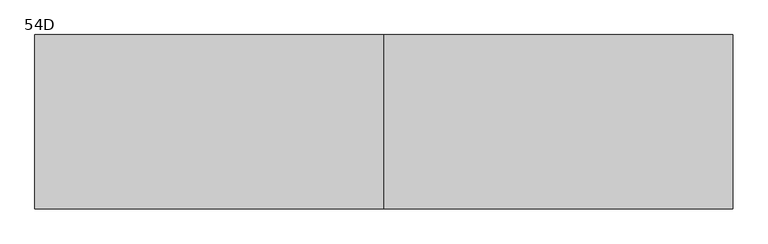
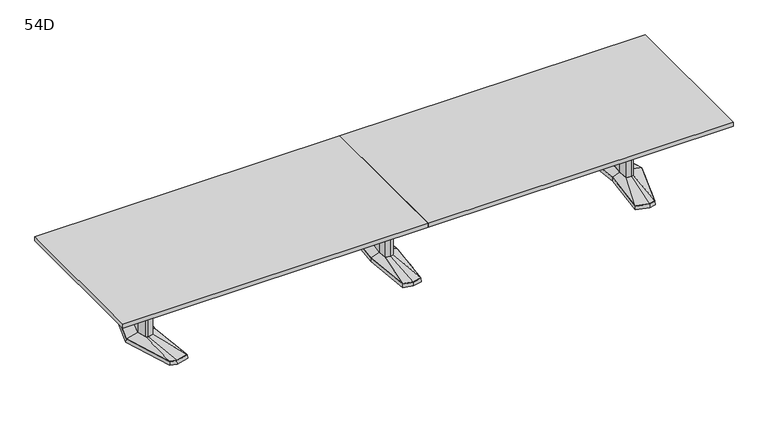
"""IFC4 building model written with IfcOpenShell, lengths in millimetres: furniture geometry, Coalesse_AM_Table_Conference_ETable2_Rectangular_18ft_AluminiumBase : 54D."""

from ifc_helpers import new_model, si_unit, frame, origin, place, context, project, spatial, polyline, outline, extrude, faceted_brep, source, transform, mapped, element, save
from ifc_brep_helpers import plane_surface, spline_surface, advanced_brep


def furniture_54d_8ed66000(model_context):
    return source(origin(), model_context, "Body", "SolidModel", [
        faceted_brep([(-81.2333791, -433.8053819, 38.1), (0.0, -455.556576, 38.1), (81.2333791, -433.8053819, 38.1), (119.0564774, 0.0, 38.1), (81.2333791, 433.8053819, 38.1), (0.0, 455.556576, 38.1), (-81.2333791, 433.8053819, 38.1), (-119.0564774, 0.0, 38.1), (-82.7182795, -435.0512063, 3.175), (-120.65, 0.0, 3.175), (-82.7182795, 435.0512063, 3.175), (0.0, 457.2, 3.175), (82.7182795, 435.0512063, 3.175), (120.65, 0.0, 3.175), (82.7182795, -435.0512063, 3.175), (0.0, -457.2, 3.175), (0.0, 429.2617927, 3.175), (-77.9676806, 408.3850278, 3.175), (-74.7019821, 382.9646737, 3.175), (0.0, 402.9670094, 3.175), (74.7019821, 382.9646737, 3.175), (77.9676806, 408.3850278, 3.175), (0.0, -429.2617927, 3.175), (77.9676806, -408.3850278, 3.175), (74.7019821, -382.9646737, 3.175), (0.0, -402.9670094, 3.175), (-74.7019821, -382.9646737, 3.175), (-77.9676806, -408.3850278, 3.175), (-71.8574262, 114.6326257, 3.175), (-82.5426076, 0.0, 3.175), (-71.8574262, -114.6326257, 3.175), (0.0, -133.8761372, 3.175), (71.8574262, -114.6326257, 3.175), (82.5426076, 0.0, 3.175), (71.8574262, 114.6326257, 3.175), (0.0, 133.8761372, 3.175), (0.0, 429.2617927, 0.0), (77.9676806, 408.3850278, 0.0), (74.7019821, 382.9646737, 0.0), (0.0, 402.9670094, 0.0), (-74.7019821, 382.9646737, 0.0), (-77.9676806, 408.3850278, 0.0), (0.0, -429.2617927, 0.0), (-77.9676806, -408.3850278, 0.0), (-74.7019821, -382.9646737, 0.0), (0.0, -402.9670094, 0.0), (74.7019821, -382.9646737, 0.0), (77.9676806, -408.3850278, 0.0), (-71.8574262, 114.6326257, 0.0), (0.0, 133.8761372, 0.0), (71.8574262, 114.6326257, 0.0), (82.5426076, 0.0, 0.0), (71.8574262, -114.6326257, 0.0), (0.0, -133.8761372, 0.0), (-71.8574262, -114.6326257, 0.0), (-82.5426076, 0.0, 0.0)], [[[0, 1, 2, 3, 4, 5, 6, 7]], [[8, 9, 10, 11, 12, 13, 14, 15], [16, 17, 18, 19, 20, 21], [22, 23, 24, 25, 26, 27], [28, 29, 30, 31, 32, 33, 34, 35]], [[1, 0, 8, 15]], [[2, 1, 15, 14]], [[3, 2, 14, 13]], [[4, 3, 13, 12]], [[5, 4, 12, 11]], [[6, 5, 11, 10]], [[7, 6, 10, 9]], [[0, 7, 9, 8]], [[36, 37, 38, 39, 40, 41]], [[42, 43, 44, 45, 46, 47]], [[48, 49, 50, 51, 52, 53, 54, 55]], [[36, 41, 17, 16]], [[41, 40, 18, 17]], [[40, 39, 19, 18]], [[39, 38, 20, 19]], [[38, 37, 21, 20]], [[37, 36, 16, 21]], [[42, 47, 23, 22]], [[47, 46, 24, 23]], [[46, 45, 25, 24]], [[45, 44, 26, 25]], [[44, 43, 27, 26]], [[43, 42, 22, 27]], [[48, 55, 29, 28]], [[55, 54, 30, 29]], [[54, 53, 31, 30]], [[53, 52, 32, 31]], [[52, 51, 33, 32]], [[51, 50, 34, 33]], [[50, 49, 35, 34]], [[49, 48, 28, 35]]]),
        faceted_brep([(-36.3832834, 84.6900825, 698.5), (-44.2774487, 0.0, 698.5), (-36.3832834, -84.6900825, 698.5), (0.0, -94.4335728, 698.5), (36.3832834, -84.6900825, 698.5), (44.2774487, 0.0, 698.5), (36.3832834, 84.6900825, 698.5), (0.0, 94.4335728, 698.5), (-36.3832834, 84.6900825, 63.5), (0.0, 94.4335728, 63.5), (36.3832834, 84.6900825, 63.5), (44.2774487, 0.0, 63.5), (36.3832834, -84.6900825, 63.5), (0.0, -94.4335728, 63.5), (-36.3832834, -84.6900825, 63.5), (-44.2774487, 0.0, 63.5)], [[[0, 1, 2, 3, 4, 5, 6, 7]], [[8, 9, 10, 11, 12, 13, 14, 15]], [[1, 0, 8, 15]], [[2, 1, 15, 14]], [[3, 2, 14, 13]], [[4, 3, 13, 12]], [[5, 4, 12, 11]], [[6, 5, 11, 10]], [[7, 6, 10, 9]], [[0, 7, 9, 8]]]),
        advanced_brep(
        [(-36.3832834, 84.6900825, 63.5), (-44.2774487, 0.0, 63.5), (-36.3832834, -84.6900825, 63.5), (0.0, -94.4335728, 63.5), (36.3832834, -84.6900825, 63.5), (44.2774487, 0.0, 63.5), (36.3832834, 84.6900825, 63.5), (0.0, 94.4335728, 63.5), (-81.2333791, 433.8053819, 38.1), (0.0, 455.556576, 38.1), (81.2333791, 433.8053819, 38.1), (119.0564774, 0.0, 38.1), (81.2333791, -433.8053819, 38.1), (0.0, -455.556576, 38.1), (-81.2333791, -433.8053819, 38.1), (-119.0564774, 0.0, 38.1)],
        [
            (0, 1),
            (1, 2),
            (2, 3),
            (3, 4),
            (4, 5),
            (5, 6),
            (6, 7),
            (7, 0),
            (8, 9),
            (9, 10),
            (10, 11),
            (11, 12),
            (12, 13),
            (13, 14),
            (14, 15),
            (15, 8),
            (15, 1),
            (0, 8),
            (14, 2),
            (13, 3),
            (12, 4),
            (11, 5),
            (10, 6),
            (9, 7),
        ],
        [
            plane_surface(frame((0.0, 0.0, 63.5), z_axis=(0.0, 0.0, 1.0000000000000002), x_axis=(-0.9659615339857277, -0.25868574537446, 0.0))),
            plane_surface(frame((0.0, 0.0, 38.1), z_axis=(0.0, 0.0, -1.0000000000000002), x_axis=(-0.9659615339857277, -0.25868574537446, 0.0))),
            spline_surface(1, 1, [[(-81.2333791, 433.8053819, 38.1), (-36.3832834, 84.6900825, 63.5)], [(-119.0564774, 0.0, 38.1), (-44.2774487, 0.0, 63.5)]], [2, 2], [2, 2], [0.0, 1.0], [0.0, 1.0]),
            spline_surface(1, 1, [[(-119.0564774, 0.0, 38.1), (-44.2774487, 0.0, 63.5)], [(-81.2333791, -433.8053819, 38.1), (-36.3832834, -84.6900825, 63.5)]], [2, 2], [2, 2], [0.0, 1.0], [0.0, 1.0]),
            spline_surface(1, 1, [[(-81.2333791, -433.8053819, 38.1), (-36.3832834, -84.6900825, 63.5)], [(0.0, -455.556576, 38.1), (0.0, -94.4335728, 63.5)]], [2, 2], [2, 2], [0.0, 1.0], [0.0, 1.0]),
            spline_surface(1, 1, [[(0.0, -455.556576, 38.1), (0.0, -94.4335728, 63.5)], [(81.2333791, -433.8053819, 38.1), (36.3832834, -84.6900825, 63.5)]], [2, 2], [2, 2], [0.0, 1.0], [0.0, 1.0]),
            spline_surface(1, 1, [[(81.2333791, -433.8053819, 38.1), (36.3832834, -84.6900825, 63.5)], [(119.0564774, 0.0, 38.1), (44.2774487, 0.0, 63.5)]], [2, 2], [2, 2], [0.0, 1.0], [0.0, 1.0]),
            spline_surface(1, 1, [[(119.0564774, 0.0, 38.1), (44.2774487, 0.0, 63.5)], [(81.2333791, 433.8053819, 38.1), (36.3832834, 84.6900825, 63.5)]], [2, 2], [2, 2], [0.0, 1.0], [0.0, 1.0]),
            spline_surface(1, 1, [[(81.2333791, 433.8053819, 38.1), (36.3832834, 84.6900825, 63.5)], [(0.0, 455.556576, 38.1), (0.0, 94.4335728, 63.5)]], [2, 2], [2, 2], [0.0, 1.0], [0.0, 1.0]),
            spline_surface(1, 1, [[(0.0, 455.556576, 38.1), (0.0, 94.4335728, 63.5)], [(-81.2333791, 433.8053819, 38.1), (-36.3832834, 84.6900825, 63.5)]], [2, 2], [2, 2], [0.0, 1.0], [0.0, 1.0]),
        ],
        [
            (0, [[1, 2, 3, 4, 5, 6, 7, 8]]),
            (1, [[9, 10, 11, 12, 13, 14, 15, 16]]),
            (2, [[-16, 17, -1, 18]]),
            (3, [[-15, 19, -2, -17]]),
            (4, [[-14, 20, -3, -19]]),
            (5, [[-13, 21, -4, -20]]),
            (6, [[-12, 22, -5, -21]]),
            (7, [[-11, 23, -6, -22]]),
            (8, [[-10, 24, -7, -23]]),
            (9, [[-9, -18, -8, -24]]),
        ],
    ),
        faceted_brep([(2125.0306835, 455.5848221, 38.1), (2015.4531277, 426.2263816, 38.1), (2056.6163717, 0.0, 38.1), (2015.4531277, -426.2263816, 38.1), (2125.0306835, -455.5848221, 38.1), (2181.1570396, -440.5478297, 38.1), (2318.4684269, 0.0, 38.1), (2181.1570396, 440.5478297, 38.1), (2125.0306754, 457.2283104, 3.175), (2182.4124472, 441.8549756, 3.175), (2320.13125, 0.0, 3.175), (2182.4124472, -441.8549756, 3.175), (2125.0306754, -457.2283104, 3.175), (2013.74375, -427.4118891, 3.175), (2055.0214856, 0.0, 3.175), (2013.74375, 427.4118891, 3.175), (2128.620115, 428.3273875, 3.175), (2023.5718228, 402.1057253, 3.175), (2031.690518, 377.985069, 3.175), (2132.2095466, 401.0699529, 3.175), (2182.7691725, 387.524361, 3.175), (2181.9631061, 414.0360954, 3.175), (2128.620115, -428.3273875, 3.175), (2181.9631061, -414.0360954, 3.175), (2182.7691725, -387.524361, 3.175), (2132.2095466, -401.0699529, 3.175), (2031.690518, -377.985069, 3.175), (2023.5718228, -402.1057253, 3.175), (2255.2153621, 0.0, 3.175), (2222.9459611, 120.4193755, 3.175), (2174.2987222, 133.471665, 3.175), (2094.4180526, 119.4176561, 3.175), (2083.2868466, 0.0, 3.175), (2094.4180526, -119.4176561, 3.175), (2174.2987222, -133.471665, 3.175), (2222.9459611, -120.4193755, 3.175), (2128.620115, 428.3273875, 0.0), (2181.9631061, 414.0360954, 0.0), (2182.7691725, 387.524361, 0.0), (2132.2095466, 401.0699529, 0.0), (2031.690518, 377.985069, 0.0), (2023.5718228, 402.1057253, 0.0), (2128.620115, -428.3273875, 0.0), (2023.5718228, -402.1057253, 0.0), (2031.690518, -377.985069, 0.0), (2132.2095466, -401.0699529, 0.0), (2182.7691725, -387.524361, 0.0), (2181.9631061, -414.0360954, 0.0), (2255.2153621, 0.0, 0.0), (2222.9459611, -120.4193755, 0.0), (2174.2987222, -133.471665, 0.0), (2094.4180526, -119.4176561, 0.0), (2083.2868466, 0.0, 0.0), (2094.4180526, 119.4176561, 0.0), (2174.2987222, 133.471665, 0.0), (2222.9459611, 120.4193755, 0.0)], [[[0, 1, 2, 3, 4, 5, 6, 7]], [[8, 9, 10, 11, 12, 13, 14, 15], [16, 17, 18, 19, 20, 21], [22, 23, 24, 25, 26, 27], [28, 29, 30, 31, 32, 33, 34, 35]], [[7, 9, 8, 0]], [[6, 10, 9, 7]], [[5, 11, 10, 6]], [[4, 12, 11, 5]], [[3, 13, 12, 4]], [[2, 14, 13, 3]], [[1, 15, 14, 2]], [[0, 8, 15, 1]], [[36, 37, 38, 39, 40, 41]], [[42, 43, 44, 45, 46, 47]], [[48, 49, 50, 51, 52, 53, 54, 55]], [[36, 16, 21, 37]], [[37, 21, 20, 38]], [[38, 20, 19, 39]], [[39, 19, 18, 40]], [[40, 18, 17, 41]], [[41, 17, 16, 36]], [[42, 22, 27, 43]], [[43, 27, 26, 44]], [[44, 26, 25, 45]], [[45, 25, 24, 46]], [[46, 24, 23, 47]], [[47, 23, 22, 42]], [[48, 28, 35, 49]], [[49, 35, 34, 50]], [[50, 34, 33, 51]], [[51, 33, 32, 52]], [[52, 32, 31, 53]], [[53, 31, 30, 54]], [[54, 30, 29, 55]], [[55, 29, 28, 48]]]),
        faceted_brep([(2215.7710836, 0.0, 698.5), (2191.8358546, 89.3188359, 698.5), (2174.9824984, 93.8406728, 698.5), (2172.5826511, 94.4845635, 698.5), (2129.655146, 86.9320037, 698.5), (2121.5520056, 0.0, 698.5), (2129.655146, -86.9320037, 698.5), (2172.5826511, -94.4845635, 698.5), (2174.9824984, -93.8406728, 698.5), (2191.8358546, -89.3188359, 698.5), (2215.7710836, 0.0, 63.5), (2191.8358546, -89.3188359, 63.5), (2174.9824984, -93.8406728, 63.5), (2172.5826511, -94.4845635, 63.5), (2129.655146, -86.9320037, 63.5), (2121.5520056, 0.0, 63.5), (2129.655146, 86.9320037, 63.5), (2172.5826511, 94.4845635, 63.5), (2174.9824984, 93.8406728, 63.5), (2191.8358546, 89.3188359, 63.5)], [[[0, 1, 2, 3, 4, 5, 6, 7, 8, 9]], [[10, 11, 12, 13, 14, 15, 16, 17, 18, 19]], [[9, 11, 10, 0]], [[8, 12, 11, 9]], [[7, 13, 12, 8]], [[6, 14, 13, 7]], [[5, 15, 14, 6]], [[4, 16, 15, 5]], [[3, 17, 16, 4]], [[2, 18, 17, 3]], [[1, 19, 18, 2]], [[0, 10, 19, 1]]]),
        advanced_brep(
        [(2172.5826511, 94.4845635, 63.5), (2129.655146, 86.9320037, 63.5), (2121.5520056, 0.0, 63.5), (2129.655146, -86.9320037, 63.5), (2172.5826511, -94.4845635, 63.5), (2191.8358546, -89.3188359, 63.5), (2215.7710836, 0.0, 63.5), (2191.8358546, 89.3188359, 63.5), (2125.0306835, 455.5848221, 38.1), (2181.1570396, 440.5478297, 38.1), (2318.4684269, 0.0, 38.1), (2181.1570396, -440.5478297, 38.1), (2125.0306835, -455.5848221, 38.1), (2015.4531277, -426.2263816, 38.1), (2056.6163717, 0.0, 38.1), (2015.4531277, 426.2263816, 38.1)],
        [
            (0, 1),
            (1, 2),
            (2, 3),
            (3, 4),
            (4, 5),
            (5, 6),
            (6, 7),
            (7, 0),
            (8, 9),
            (9, 10),
            (10, 11),
            (11, 12),
            (12, 13),
            (13, 14),
            (14, 15),
            (15, 8),
            (8, 0),
            (7, 9),
            (6, 10),
            (5, 11),
            (4, 12),
            (3, 13),
            (2, 14),
            (1, 15),
        ],
        [
            plane_surface(frame((2165.6837991, 0.0, 63.5), z_axis=(0.0, 0.0, 1.0), x_axis=(-0.25884244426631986, -0.9659195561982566, 0.0))),
            plane_surface(frame((2127.2958125, 0.0, 38.1), z_axis=(0.0, 0.0, -1.0), x_axis=(-0.25884244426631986, -0.9659195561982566, 0.0))),
            spline_surface(1, 1, [[(2125.0306835, 455.5848221, 38.1), (2181.1570396, 440.5478297, 38.1)], [(2172.5826511, 94.4845635, 63.5), (2191.8358546, 89.3188359, 63.5)]], [2, 2], [2, 2], [0.0, 1.0], [0.0, 1.0]),
            spline_surface(1, 1, [[(2181.1570396, 440.5478297, 38.1), (2318.4684269, 0.0, 38.1)], [(2191.8358546, 89.3188359, 63.5), (2215.7710836, 0.0, 63.5)]], [2, 2], [2, 2], [0.0, 1.0], [0.0, 1.0]),
            spline_surface(1, 1, [[(2318.4684269, 0.0, 38.1), (2181.1570396, -440.5478297, 38.1)], [(2215.7710836, 0.0, 63.5), (2191.8358546, -89.3188359, 63.5)]], [2, 2], [2, 2], [0.0, 1.0], [0.0, 1.0]),
            spline_surface(1, 1, [[(2181.1570396, -440.5478297, 38.1), (2125.0306835, -455.5848221, 38.1)], [(2191.8358546, -89.3188359, 63.5), (2172.5826511, -94.4845635, 63.5)]], [2, 2], [2, 2], [0.0, 1.0], [0.0, 1.0]),
            spline_surface(1, 1, [[(2125.0306835, -455.5848221, 38.1), (2015.4531277, -426.2263816, 38.1)], [(2172.5826511, -94.4845635, 63.5), (2129.655146, -86.9320037, 63.5)]], [2, 2], [2, 2], [0.0, 1.0], [0.0, 1.0]),
            spline_surface(1, 1, [[(2015.4531277, -426.2263816, 38.1), (2056.6163717, 0.0, 38.1)], [(2129.655146, -86.9320037, 63.5), (2121.5520056, 0.0, 63.5)]], [2, 2], [2, 2], [0.0, 1.0], [0.0, 1.0]),
            spline_surface(1, 1, [[(2056.6163717, 0.0, 38.1), (2015.4531277, 426.2263816, 38.1)], [(2121.5520056, 0.0, 63.5), (2129.655146, 86.9320037, 63.5)]], [2, 2], [2, 2], [0.0, 1.0], [0.0, 1.0]),
            spline_surface(1, 1, [[(2015.4531277, 426.2263816, 38.1), (2125.0306835, 455.5848221, 38.1)], [(2129.655146, 86.9320037, 63.5), (2172.5826511, 94.4845635, 63.5)]], [2, 2], [2, 2], [0.0, 1.0], [0.0, 1.0]),
        ],
        [
            (0, [[1, 2, 3, 4, 5, 6, 7, 8]]),
            (1, [[9, 10, 11, 12, 13, 14, 15, 16]]),
            (2, [[17, -8, 18, -9]]),
            (3, [[-18, -7, 19, -10]]),
            (4, [[-19, -6, 20, -11]]),
            (5, [[-20, -5, 21, -12]]),
            (6, [[-21, -4, 22, -13]]),
            (7, [[-22, -3, 23, -14]]),
            (8, [[-23, -2, 24, -15]]),
            (9, [[-24, -1, -17, -16]]),
        ],
    ),
        faceted_brep([(-2125.0306835, 455.5848221, 38.1), (-2181.1570396, 440.5478297, 38.1), (-2318.4684269, 0.0, 38.1), (-2181.1570396, -440.5478297, 38.1), (-2125.0306835, -455.5848221, 38.1), (-2015.4531277, -426.2263816, 38.1), (-2056.6163717, 0.0, 38.1), (-2015.4531277, 426.2263816, 38.1), (-2125.0306754, 457.2283104, 3.175), (-2013.74375, 427.4118891, 3.175), (-2055.0214856, 0.0, 3.175), (-2013.74375, -427.4118891, 3.175), (-2125.0306754, -457.2283104, 3.175), (-2182.4124472, -441.8549756, 3.175), (-2320.13125, 0.0, 3.175), (-2182.4124472, 441.8549756, 3.175), (-2128.620115, 428.3273875, 3.175), (-2181.9631061, 414.0360954, 3.175), (-2182.7691725, 387.524361, 3.175), (-2132.2095466, 401.0699529, 3.175), (-2031.690518, 377.985069, 3.175), (-2023.5718228, 402.1057253, 3.175), (-2128.620115, -428.3273875, 3.175), (-2023.5718228, -402.1057253, 3.175), (-2031.690518, -377.985069, 3.175), (-2132.2095466, -401.0699529, 3.175), (-2182.7691725, -387.524361, 3.175), (-2181.9631061, -414.0360954, 3.175), (-2255.2153621, 0.0, 3.175), (-2222.9459611, -120.4193755, 3.175), (-2174.2987222, -133.471665, 3.175), (-2094.4180526, -119.4176561, 3.175), (-2083.2868466, 0.0, 3.175), (-2094.4180526, 119.4176561, 3.175), (-2174.2987222, 133.471665, 3.175), (-2222.9459611, 120.4193755, 3.175), (-2128.620115, 428.3273875, 0.0), (-2023.5718228, 402.1057253, 0.0), (-2031.690518, 377.985069, 0.0), (-2132.2095466, 401.0699529, 0.0), (-2182.7691725, 387.524361, 0.0), (-2181.9631061, 414.0360954, 0.0), (-2128.620115, -428.3273875, 0.0), (-2181.9631061, -414.0360954, 0.0), (-2182.7691725, -387.524361, 0.0), (-2132.2095466, -401.0699529, 0.0), (-2031.690518, -377.985069, 0.0), (-2023.5718228, -402.1057253, 0.0), (-2255.2153621, 0.0, 0.0), (-2222.9459611, 120.4193755, 0.0), (-2174.2987222, 133.471665, 0.0), (-2094.4180526, 119.4176561, 0.0), (-2083.2868466, 0.0, 0.0), (-2094.4180526, -119.4176561, 0.0), (-2174.2987222, -133.471665, 0.0), (-2222.9459611, -120.4193755, 0.0)], [[[0, 1, 2, 3, 4, 5, 6, 7]], [[8, 9, 10, 11, 12, 13, 14, 15], [16, 17, 18, 19, 20, 21], [22, 23, 24, 25, 26, 27], [28, 29, 30, 31, 32, 33, 34, 35]], [[1, 0, 8, 15]], [[2, 1, 15, 14]], [[3, 2, 14, 13]], [[4, 3, 13, 12]], [[5, 4, 12, 11]], [[6, 5, 11, 10]], [[7, 6, 10, 9]], [[0, 7, 9, 8]], [[36, 37, 38, 39, 40, 41]], [[42, 43, 44, 45, 46, 47]], [[48, 49, 50, 51, 52, 53, 54, 55]], [[36, 41, 17, 16]], [[41, 40, 18, 17]], [[40, 39, 19, 18]], [[39, 38, 20, 19]], [[38, 37, 21, 20]], [[37, 36, 16, 21]], [[42, 47, 23, 22]], [[47, 46, 24, 23]], [[46, 45, 25, 24]], [[45, 44, 26, 25]], [[44, 43, 27, 26]], [[43, 42, 22, 27]], [[48, 55, 29, 28]], [[55, 54, 30, 29]], [[54, 53, 31, 30]], [[53, 52, 32, 31]], [[52, 51, 33, 32]], [[51, 50, 34, 33]], [[50, 49, 35, 34]], [[49, 48, 28, 35]]]),
        faceted_brep([(-2215.7710836, 0.0, 698.5), (-2191.8358546, -89.3188359, 698.5), (-2174.9824984, -93.8406728, 698.5), (-2172.5826511, -94.4845635, 698.5), (-2129.655146, -86.9320037, 698.5), (-2121.5520056, 0.0, 698.5), (-2129.655146, 86.9320037, 698.5), (-2172.5826511, 94.4845635, 698.5), (-2174.9824984, 93.8406728, 698.5), (-2191.8358546, 89.3188359, 698.5), (-2215.7710836, 0.0, 63.5), (-2191.8358546, 89.3188359, 63.5), (-2174.9824984, 93.8406728, 63.5), (-2172.5826511, 94.4845635, 63.5), (-2129.655146, 86.9320037, 63.5), (-2121.5520056, 0.0, 63.5), (-2129.655146, -86.9320037, 63.5), (-2172.5826511, -94.4845635, 63.5), (-2174.9824984, -93.8406728, 63.5), (-2191.8358546, -89.3188359, 63.5)], [[[0, 1, 2, 3, 4, 5, 6, 7, 8, 9]], [[10, 11, 12, 13, 14, 15, 16, 17, 18, 19]], [[1, 0, 10, 19]], [[2, 1, 19, 18]], [[3, 2, 18, 17]], [[4, 3, 17, 16]], [[5, 4, 16, 15]], [[6, 5, 15, 14]], [[7, 6, 14, 13]], [[8, 7, 13, 12]], [[9, 8, 12, 11]], [[0, 9, 11, 10]]]),
        advanced_brep(
        [(-2172.5826511, 94.4845635, 63.5), (-2191.8358546, 89.3188359, 63.5), (-2215.7710836, 0.0, 63.5), (-2191.8358546, -89.3188359, 63.5), (-2172.5826511, -94.4845635, 63.5), (-2129.655146, -86.9320037, 63.5), (-2121.5520056, 0.0, 63.5), (-2129.655146, 86.9320037, 63.5), (-2125.0306835, 455.5848221, 38.1), (-2015.4531277, 426.2263816, 38.1), (-2056.6163717, 0.0, 38.1), (-2015.4531277, -426.2263816, 38.1), (-2125.0306835, -455.5848221, 38.1), (-2181.1570396, -440.5478297, 38.1), (-2318.4684269, 0.0, 38.1), (-2181.1570396, 440.5478297, 38.1)],
        [
            (0, 1),
            (1, 2),
            (2, 3),
            (3, 4),
            (4, 5),
            (5, 6),
            (6, 7),
            (7, 0),
            (8, 9),
            (9, 10),
            (10, 11),
            (11, 12),
            (12, 13),
            (13, 14),
            (14, 15),
            (15, 8),
            (15, 1),
            (0, 8),
            (14, 2),
            (13, 3),
            (12, 4),
            (11, 5),
            (10, 6),
            (9, 7),
        ],
        [
            plane_surface(frame((-2165.6837991, 0.0, 63.5), z_axis=(0.0, 0.0, 1.0), x_axis=(0.25884244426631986, -0.9659195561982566, 0.0))),
            plane_surface(frame((-2127.2958125, 0.0, 38.1), z_axis=(0.0, 0.0, -1.0), x_axis=(0.25884244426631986, -0.9659195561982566, 0.0))),
            spline_surface(1, 1, [[(-2125.0306835, 455.5848221, 38.1), (-2172.5826511, 94.4845635, 63.5)], [(-2181.1570396, 440.5478297, 38.1), (-2191.8358546, 89.3188359, 63.5)]], [2, 2], [2, 2], [0.0, 1.0], [0.0, 1.0]),
            spline_surface(1, 1, [[(-2181.1570396, 440.5478297, 38.1), (-2191.8358546, 89.3188359, 63.5)], [(-2318.4684269, 0.0, 38.1), (-2215.7710836, 0.0, 63.5)]], [2, 2], [2, 2], [0.0, 1.0], [0.0, 1.0]),
            spline_surface(1, 1, [[(-2318.4684269, 0.0, 38.1), (-2215.7710836, 0.0, 63.5)], [(-2181.1570396, -440.5478297, 38.1), (-2191.8358546, -89.3188359, 63.5)]], [2, 2], [2, 2], [0.0, 1.0], [0.0, 1.0]),
            spline_surface(1, 1, [[(-2181.1570396, -440.5478297, 38.1), (-2191.8358546, -89.3188359, 63.5)], [(-2125.0306835, -455.5848221, 38.1), (-2172.5826511, -94.4845635, 63.5)]], [2, 2], [2, 2], [0.0, 1.0], [0.0, 1.0]),
            spline_surface(1, 1, [[(-2125.0306835, -455.5848221, 38.1), (-2172.5826511, -94.4845635, 63.5)], [(-2015.4531277, -426.2263816, 38.1), (-2129.655146, -86.9320037, 63.5)]], [2, 2], [2, 2], [0.0, 1.0], [0.0, 1.0]),
            spline_surface(1, 1, [[(-2015.4531277, -426.2263816, 38.1), (-2129.655146, -86.9320037, 63.5)], [(-2056.6163717, 0.0, 38.1), (-2121.5520056, 0.0, 63.5)]], [2, 2], [2, 2], [0.0, 1.0], [0.0, 1.0]),
            spline_surface(1, 1, [[(-2056.6163717, 0.0, 38.1), (-2121.5520056, 0.0, 63.5)], [(-2015.4531277, 426.2263816, 38.1), (-2129.655146, 86.9320037, 63.5)]], [2, 2], [2, 2], [0.0, 1.0], [0.0, 1.0]),
            spline_surface(1, 1, [[(-2015.4531277, 426.2263816, 38.1), (-2129.655146, 86.9320037, 63.5)], [(-2125.0306835, 455.5848221, 38.1), (-2172.5826511, 94.4845635, 63.5)]], [2, 2], [2, 2], [0.0, 1.0], [0.0, 1.0]),
        ],
        [
            (0, [[1, 2, 3, 4, 5, 6, 7, 8]]),
            (1, [[9, 10, 11, 12, 13, 14, 15, 16]]),
            (2, [[-16, 17, -1, 18]]),
            (3, [[-15, 19, -2, -17]]),
            (4, [[-14, 20, -3, -19]]),
            (5, [[-13, 21, -4, -20]]),
            (6, [[-12, 22, -5, -21]]),
            (7, [[-11, 23, -6, -22]]),
            (8, [[-10, 24, -7, -23]]),
            (9, [[-9, -18, -8, -24]]),
        ],
    ),
        extrude(outline(polyline([(96.8375, 698.5), (103.1875, 698.5), (103.1875, 476.25), (-103.1875, 476.25), (-103.1875, 698.5), (-96.8375, 698.5), (-96.8375, 482.6), (96.8375, 482.6), (96.8375, 698.5)])), frame((44.2774487, 0.0, 0.0), z_axis=(1.0, 0.0, 0.0), x_axis=(0.0, 1.0, 0.0)), (0.0, 0.0, 1.0), 2077.4163013),
        extrude(outline(polyline([(2743.2, 685.8), (2743.2, -685.8), (0.0, -685.8), (0.0, 685.8), (2743.2, 685.8)])), frame((0.0, 0.0, 698.5), z_axis=(0.0, 0.0, 1.0), x_axis=(1.0, 0.0, 0.0)), (0.0, 0.0, 1.0), 38.1),
        extrude(outline(polyline([(0.0, 685.8), (0.0, -685.8), (-2743.2, -685.8), (-2743.2, 685.8), (0.0, 685.8)])), frame((0.0, 0.0, 698.5), z_axis=(0.0, 0.0, 1.0), x_axis=(1.0, 0.0, 0.0)), (0.0, 0.0, 1.0), 38.1),
        extrude(outline(polyline([(96.8375, 698.5), (103.1875, 698.5), (103.1875, 476.25), (-103.1875, 476.25), (-103.1875, 698.5), (-96.8375, 698.5), (-96.8375, 482.6), (96.8375, 482.6), (96.8375, 698.5)])), frame((-2121.69375, 0.0, 0.0), z_axis=(1.0, 0.0, 0.0), x_axis=(0.0, 1.0, 0.0)), (0.0, 0.0, 1.0), 2077.4163013),
    ])


if __name__ == "__main__":
    model = new_model("IFC4")
    model_context = context("Model", 3, world=origin())
    ifc_project = project(units=[si_unit("LENGTHUNIT", "METRE", prefix="MILLI")], contexts=[model_context])
    site = spatial("IfcSite", under=ifc_project)
    building = spatial("IfcBuilding", under=site)
    placement = place(None, origin())
    furniture_54d_shape = furniture_54d_8ed66000(model_context)
    element("IfcFurniture", 1, ObjectType="Coalesse_AM_Table_Conference_ETable2_Rectangular_18ft_AluminiumBase : 54D", at=placement, inside=building, context=model_context, shape_type="MappedRepresentation", body=[
        mapped(furniture_54d_shape, transform((0.0, 0.0, 0.0), x_axis=(1.0, 0.0, 0.0), y_axis=(0.0, 1.0, 0.0), z_axis=(0.0, 0.0, 1.0))),
    ])
    save(model, "model.ifc")
